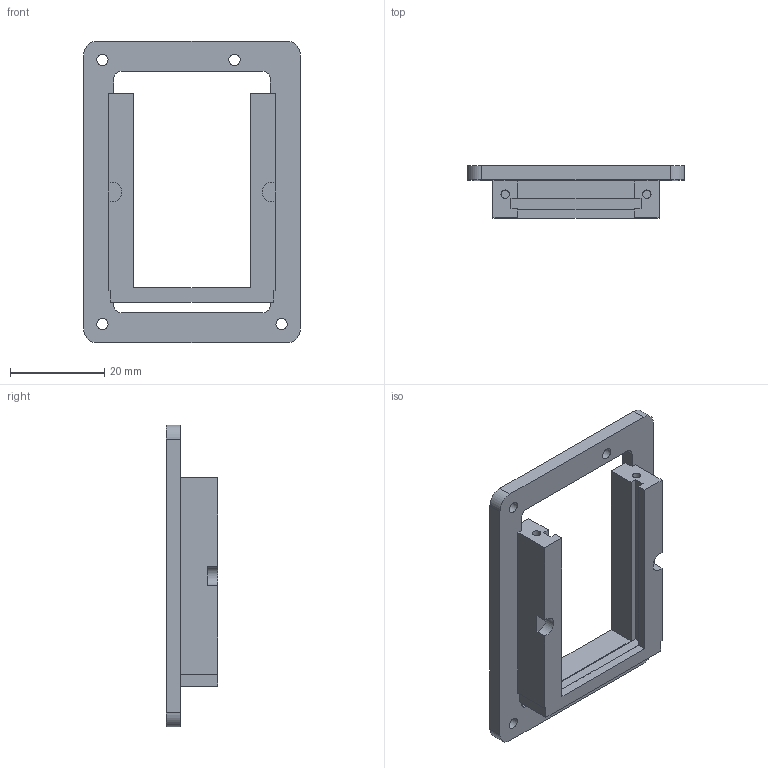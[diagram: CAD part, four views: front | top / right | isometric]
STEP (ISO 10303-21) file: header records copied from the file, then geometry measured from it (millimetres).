
FILE_DESCRIPTION(('Open CASCADE Model'),'2;1');
FILE_NAME('Open CASCADE Shape Model','2026-10-20T15:49:45',('Author'),( 'Open CASCADE'),'Open CASCADE STEP processor 7.8','Open CASCADE 7.8' ,'Unknown');
FILE_SCHEMA(('AUTOMOTIVE_DESIGN { 1 0 10303 214 1 1 1 1 }'));
Length unit declared in the file: millimetre
Products named in the file (1): Open CASCADE STEP translator 7.8 6
Bounding box: 46 x 11 x 64 mm (x, y, z)
Volume: 8475.7 mm3; surface area: 6930.9 mm2
Topology: 1 solids, 1 shells, 52 faces, 150 edges, 100 vertices
Faces by surface type: plane 36, cylinder 16
Full cylindrical faces by diameter (mm): 1.8 x2, 2.4 x4
Entity records: 3622 total; most frequent: CARTESIAN_POINT 707, DIRECTION 504, LINE 306, VECTOR 306, ORIENTED_EDGE 300, PCURVE 300, DEFINITIONAL_REPRESENTATION 300, EDGE_CURVE 150
